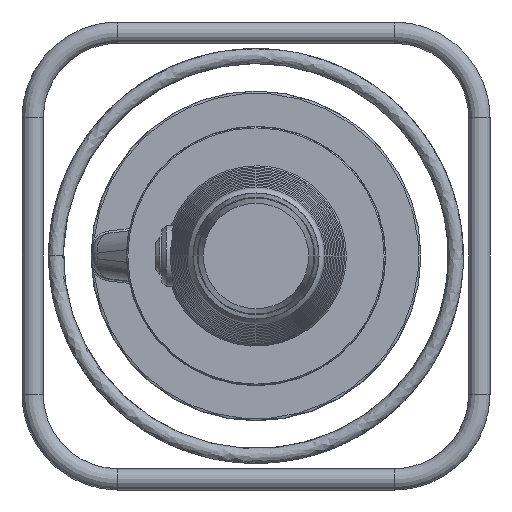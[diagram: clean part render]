
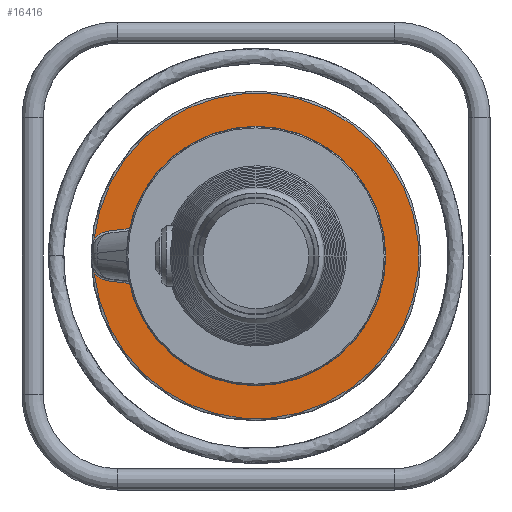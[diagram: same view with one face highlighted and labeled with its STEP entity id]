
A CAD part, left-side view. The second image highlights one B-rep face of the part: STEP entity #16416.
In plain terms, the highlighted planar face has unit normal (-1, 0, 0).
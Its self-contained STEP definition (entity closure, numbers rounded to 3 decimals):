
#1533=PLANE('',#17407);
#2524=LINE('',#33902,#3440);
#2525=LINE('',#33909,#3441);
#3440=VECTOR('',#20216,38.794);
#3441=VECTOR('',#20223,38.794);
#4579=FACE_OUTER_BOUND('',#5659,.T.);
#5659=EDGE_LOOP('',(#14402,#14403,#14404,#14405,#14406,#14407,#14408,#14409));
#6392=CIRCLE('',#17408,21.);
#6393=CIRCLE('',#17409,153.);
#6394=CIRCLE('',#17410,21.);
#6395=CIRCLE('',#17411,8.);
#6396=CIRCLE('',#17412,99.305);
#6397=CIRCLE('',#17413,8.);
#7946=VERTEX_POINT('',#33894);
#7947=VERTEX_POINT('',#33895);
#7948=VERTEX_POINT('',#33897);
#7949=VERTEX_POINT('',#33899);
#7950=VERTEX_POINT('',#33901);
#7951=VERTEX_POINT('',#33903);
#7952=VERTEX_POINT('',#33905);
#7953=VERTEX_POINT('',#33907);
#10176=EDGE_CURVE('',#7946,#7947,#6392,.T.);
#10177=EDGE_CURVE('',#7948,#7946,#6393,.T.);
#10178=EDGE_CURVE('',#7949,#7948,#6394,.T.);
#10179=EDGE_CURVE('',#7950,#7949,#2524,.T.);
#10180=EDGE_CURVE('',#7951,#7950,#6395,.T.);
#10181=EDGE_CURVE('',#7952,#7951,#6396,.T.);
#10182=EDGE_CURVE('',#7953,#7952,#6397,.T.);
#10183=EDGE_CURVE('',#7947,#7953,#2525,.T.);
#14402=ORIENTED_EDGE('',*,*,#10176,.F.);
#14403=ORIENTED_EDGE('',*,*,#10177,.F.);
#14404=ORIENTED_EDGE('',*,*,#10178,.F.);
#14405=ORIENTED_EDGE('',*,*,#10179,.F.);
#14406=ORIENTED_EDGE('',*,*,#10180,.F.);
#14407=ORIENTED_EDGE('',*,*,#10181,.F.);
#14408=ORIENTED_EDGE('',*,*,#10182,.F.);
#14409=ORIENTED_EDGE('',*,*,#10183,.F.);
#16416=ADVANCED_FACE('',(#4579),#1533,.T.);
#17407=AXIS2_PLACEMENT_3D('',#33893,#20208,#20209);
#17408=AXIS2_PLACEMENT_3D('',#33896,#20210,#20211);
#17409=AXIS2_PLACEMENT_3D('',#33898,#20212,#20213);
#17410=AXIS2_PLACEMENT_3D('',#33900,#20214,#20215);
#17411=AXIS2_PLACEMENT_3D('',#33904,#20217,#20218);
#17412=AXIS2_PLACEMENT_3D('',#33906,#20219,#20220);
#17413=AXIS2_PLACEMENT_3D('',#33908,#20221,#20222);
#20208=DIRECTION('center_axis',(-1.,0.,0.));
#20209=DIRECTION('ref_axis',(0.,-1.,0.));
#20210=DIRECTION('center_axis',(-1.,0.,0.));
#20211=DIRECTION('ref_axis',(0.,0.557,-0.831));
#20212=DIRECTION('center_axis',(1.,0.,0.));
#20213=DIRECTION('ref_axis',(0.,-1.,0.));
#20214=DIRECTION('center_axis',(-1.,0.,0.));
#20215=DIRECTION('ref_axis',(0.,0.557,0.831));
#20216=DIRECTION('',(0.,0.992,-0.123));
#20217=DIRECTION('center_axis',(1.,0.,0.));
#20218=DIRECTION('ref_axis',(0.,-0.625,-0.781));
#20219=DIRECTION('center_axis',(-1.,0.,0.));
#20220=DIRECTION('ref_axis',(0.,-1.,0.));
#20221=DIRECTION('center_axis',(1.,0.,0.));
#20222=DIRECTION('ref_axis',(0.,-0.625,0.781));
#20223=DIRECTION('',(0.,-0.992,-0.123));
#33893=CARTESIAN_POINT('Origin',(-5.009,-0.004,
-126.153));
#33894=CARTESIAN_POINT('',(-5.009,152.159,-15.974));
#33895=CARTESIAN_POINT('',(-5.009,138.549,-23.439));
#33896=CARTESIAN_POINT('Origin',(-5.009,135.971,-2.598));
#33897=CARTESIAN_POINT('',(-5.009,152.159,15.974));
#33898=CARTESIAN_POINT('Origin',(-5.009,-0.004,
0.));
#33899=CARTESIAN_POINT('',(-5.009,138.549,23.439));
#33900=CARTESIAN_POINT('Origin',(-5.009,135.971,2.598));
#33901=CARTESIAN_POINT('',(-5.009,100.049,28.202));
#33902=CARTESIAN_POINT('',(-5.009,59.752,33.188));
#33903=CARTESIAN_POINT('',(-5.009,93.499,33.447));
#33904=CARTESIAN_POINT('Origin',(-5.009,101.031,36.142));
#33905=CARTESIAN_POINT('',(-5.009,93.499,-33.447));
#33906=CARTESIAN_POINT('Origin',(-5.009,-0.004,
0.));
#33907=CARTESIAN_POINT('',(-5.009,100.049,-28.202));
#33908=CARTESIAN_POINT('Origin',(-5.009,101.031,-36.142));
#33909=CARTESIAN_POINT('',(-5.009,44.379,-35.09));
